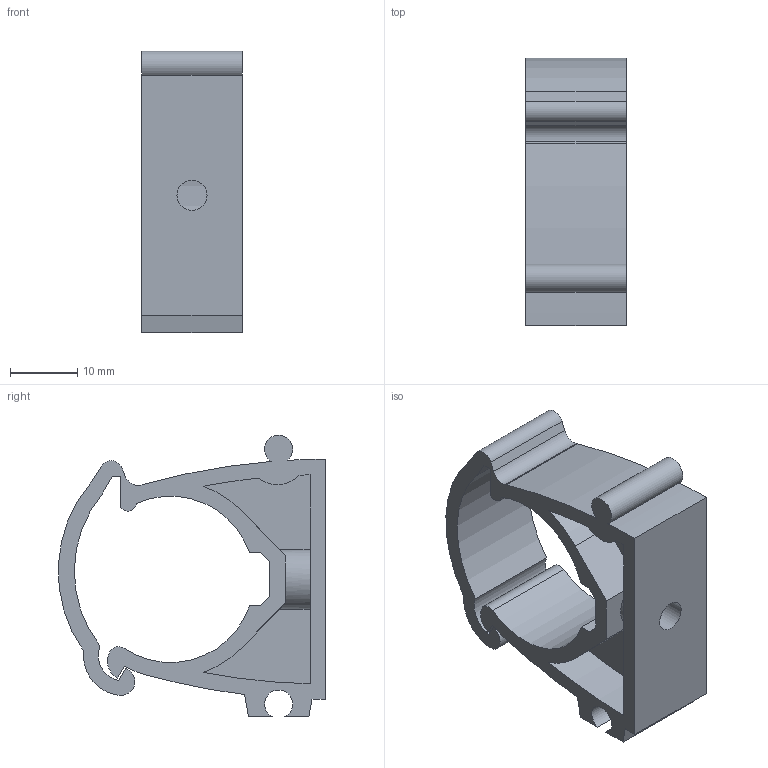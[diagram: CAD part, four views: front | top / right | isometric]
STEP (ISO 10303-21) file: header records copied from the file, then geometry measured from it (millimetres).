
FILE_DESCRIPTION(('STEP AP203'), '1');
FILE_NAME('ÂÐ.745222.003 - VT.KP.F.025', '', ('UNSPECIFIED'), ('UNSPECIFIED'), 'C3D Converter', 'C3D Toolkit', '');
FILE_SCHEMA(('CONFIG_CONTROL_DESIGN'));
Length unit declared in the file: millimetre
Products named in the file (1): ВР.745222.003
Bounding box: 15 x 39.83 x 41.99 mm (x, y, z)
Volume: 7331.7 mm3; surface area: 7049.4 mm2
Topology: 1 solids, 1 shells, 165 faces, 459 edges, 306 vertices
Faces by surface type: plane 71, extrusion 59, cylinder 35
Full cylindrical faces by diameter (mm): 4.5 x1
Entity records: 5400 total; most frequent: CARTESIAN_POINT 1296, ORIENTED_EDGE 916, DIRECTION 679, EDGE_CURVE 458, VECTOR 325, VERTEX_POINT 306, LINE 266, EDGE_LOOP 178
